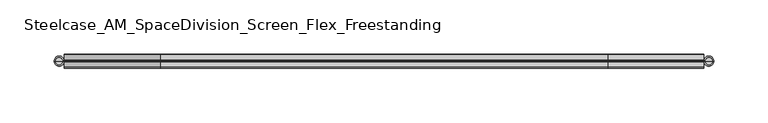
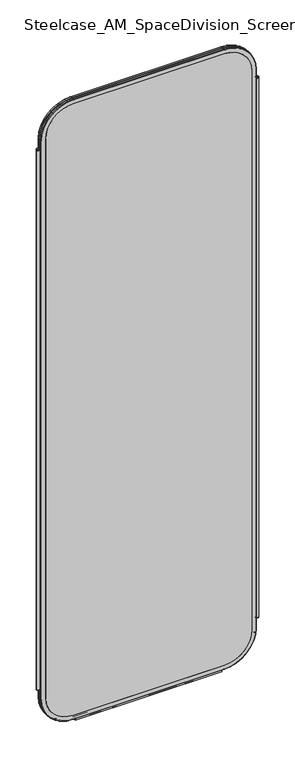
"""IFC4 building model written with IfcOpenShell, lengths in millimetres: furniture geometry, Steelcase_AM_SpaceDivision_Screen_Flex_Freestanding : 71H x 24W."""

from ifc_helpers import new_model, si_unit, point, frame, frame_2d, origin, place, context, project, spatial, polyline, circle_curve, ellipse_curve, trimmed, segment, composite_curve, outline, extrude, source, transform, mapped, element, save
from ifc_brep_helpers import plane_surface, cylinder_surface, revolved_surface, advanced_brep


def steelcase_am_spacedivision_screen_flex_freestanding_37f45801(model_context):
    return source(origin(), model_context, "Body", "SolidModel", [
        advanced_brep(
        [(608.33, 0.0, 1687.83), (601.7294661, 0.0, 1687.83), (605.029733, 0.0, 1687.83), (609.6, 0.0, 1686.56), (600.4594661, 0.0, 1686.56), (609.6, 0.0, 121.92), (600.4594661, 0.0, 121.92), (608.33, 0.0, 120.65), (601.7294661, 0.0, 120.65), (605.029733, 0.0, 120.65)],
        [
            (0, 1, circle_curve(frame((605.029733, 0.0, 1687.83), z_axis=(0.0, 0.0, 1.0), x_axis=(-1.0, 0.0, 0.0)), 3.300267)),
            (1, 2),
            (2, 0),
            (1, 0, circle_curve(frame((605.029733, 0.0, 1687.83), z_axis=(0.0, 0.0, 1.0), x_axis=(-1.0, 0.0, 0.0)), 3.300267)),
            (3, 4, circle_curve(frame((605.029733, 0.0, 1686.56), z_axis=(0.0, 0.0, 1.0), x_axis=(-1.0, 0.0, 0.0)), 4.570267)),
            (4, 1, circle_curve(frame((601.7294661, 0.0, 1686.56), z_axis=(0.0, 1.0, 0.0), x_axis=(1.0, 0.0, 0.0)), 1.27)),
            (0, 3, circle_curve(frame((608.33, 0.0, 1686.56), z_axis=(0.0, 1.0, 0.0), x_axis=(-1.0, 0.0, 0.0)), 1.27)),
            (4, 3, circle_curve(frame((605.029733, 0.0, 1686.56), z_axis=(0.0, 0.0, 1.0), x_axis=(-1.0, 0.0, 0.0)), 4.570267)),
            (5, 6, circle_curve(frame((605.029733, 0.0, 121.92), z_axis=(0.0, 0.0, 1.0), x_axis=(-1.0, 0.0, 0.0)), 4.570267)),
            (6, 4),
            (3, 5),
            (6, 5, circle_curve(frame((605.029733, 0.0, 121.92), z_axis=(0.0, 0.0, 1.0), x_axis=(-1.0, 0.0, 0.0)), 4.570267)),
            (7, 8, circle_curve(frame((605.029733, 0.0, 120.65), z_axis=(0.0, 0.0, 1.0), x_axis=(-1.0, 0.0, 0.0)), 3.300267)),
            (8, 6, circle_curve(frame((601.7294661, 0.0, 121.92), z_axis=(0.0, 1.0, 0.0), x_axis=(1.0, 0.0, 0.0)), 1.27)),
            (5, 7, circle_curve(frame((608.33, 0.0, 121.92), z_axis=(0.0, 1.0, 0.0), x_axis=(-1.0, 0.0, 0.0)), 1.27)),
            (8, 7, circle_curve(frame((605.029733, 0.0, 120.65), z_axis=(0.0, 0.0, 1.0), x_axis=(-1.0, 0.0, 0.0)), 3.300267)),
            (9, 8),
            (7, 9),
        ],
        [
            plane_surface(frame((605.029733, 0.0, 1687.83), z_axis=(0.0, 0.0, 1.0), x_axis=(-1.0, 0.0, 0.0))),
            revolved_surface(trimmed(ellipse_curve(frame((601.7294661, 0.0, 1686.56), z_axis=(0.0, -1.0, 0.0), x_axis=(1.0, 0.0, 0.0)), 1.27, 1.27), [point((601.7294661, 0.0, 1687.83))], [point((600.4594661, 0.0, 1686.56))], True, "CARTESIAN"), (605.029733, 0.0, 112.3021634), (0.0, 0.0, -1.0)),
            cylinder_surface(frame((605.029733, 0.0, 112.3021634), z_axis=(0.0, 0.0, -1.0), x_axis=(-1.0, 0.0, 0.0)), 4.570267),
            revolved_surface(trimmed(ellipse_curve(frame((601.7294661, 0.0, 121.92), z_axis=(0.0, -1.0, 0.0), x_axis=(1.0, 0.0, 0.0)), 1.27, 1.27), [point((600.4594661, 0.0, 121.92))], [point((601.7294661, 0.0, 120.65))], True, "CARTESIAN"), (605.029733, 0.0, 112.3021634), (0.0, 0.0, -1.0)),
            plane_surface(frame((605.029733, 0.0, 120.65), z_axis=(0.0, 0.0, -1.0), x_axis=(-1.0, 0.0, 0.0))),
        ],
        [
            (0, [[1, 2, 3]]),
            (0, [[4, -3, -2]]),
            (1, [[5, 6, -1, 7]]),
            (1, [[8, -7, -4, -6]]),
            (2, [[9, 10, -5, 11]]),
            (2, [[12, -11, -8, -10]]),
            (3, [[13, 14, -9, 15]]),
            (3, [[16, -15, -12, -14]]),
            (4, [[17, -13, 18]]),
            (4, [[-18, -16, -17]]),
        ],
    ),
        advanced_brep(
        [(7.9329041, 0.0, 120.65), (1.232448, 0.0, 120.65), (0.0, 0.0, 121.882448), (9.1653521, 0.0, 121.882448), (4.582676, 0.0, 120.65), (7.8953521, 0.0, 1687.83), (1.27, 0.0, 1687.83), (4.582676, 0.0, 1687.83), (9.1653521, 0.0, 1686.56), (0.0, 0.0, 1686.56)],
        [
            (0, 1, circle_curve(frame((4.582676, 0.0, 120.65), z_axis=(0.0, 0.0, 1.0), x_axis=(-1.0, 0.0, 0.0)), 3.3502281)),
            (1, 2, circle_curve(frame((1.232448, 0.0, 121.882448), z_axis=(0.0, 1.0, 0.0), x_axis=(1.0, 0.0, 0.0)), 1.232448)),
            (2, 3, circle_curve(frame((4.582676, 0.0, 121.882448), z_axis=(0.0, 0.0, -1.0), x_axis=(-1.0, 0.0, 0.0)), 4.582676)),
            (3, 0, circle_curve(frame((7.9329041, 0.0, 121.882448), z_axis=(0.0, 1.0, 0.0), x_axis=(-1.0, 0.0, 0.0)), 1.232448)),
            (1, 0, circle_curve(frame((4.582676, 0.0, 120.65), z_axis=(0.0, 0.0, 1.0), x_axis=(-1.0, 0.0, 0.0)), 3.3502281)),
            (3, 2, circle_curve(frame((4.582676, 0.0, 121.882448), z_axis=(0.0, 0.0, -1.0), x_axis=(-1.0, 0.0, 0.0)), 4.582676)),
            (4, 1),
            (0, 4),
            (5, 6, circle_curve(frame((4.582676, 0.0, 1687.83), z_axis=(0.0, 0.0, 1.0), x_axis=(-1.0, 0.0, 0.0)), 3.312676)),
            (6, 7),
            (7, 5),
            (6, 5, circle_curve(frame((4.582676, 0.0, 1687.83), z_axis=(0.0, 0.0, 1.0), x_axis=(-1.0, 0.0, 0.0)), 3.312676)),
            (8, 9, circle_curve(frame((4.582676, 0.0, 1686.56), z_axis=(0.0, 0.0, 1.0), x_axis=(-1.0, 0.0, 0.0)), 4.582676)),
            (9, 6, circle_curve(frame((1.27, 0.0, 1686.56), z_axis=(0.0, 1.0, 0.0), x_axis=(1.0, 0.0, 0.0)), 1.27)),
            (5, 8, circle_curve(frame((7.8953521, 0.0, 1686.56), z_axis=(0.0, 1.0, 0.0), x_axis=(-1.0, 0.0, 0.0)), 1.27)),
            (9, 8, circle_curve(frame((4.582676, 0.0, 1686.56), z_axis=(0.0, 0.0, 1.0), x_axis=(-1.0, 0.0, 0.0)), 4.582676)),
            (2, 9),
            (8, 3),
        ],
        [
            revolved_surface(trimmed(ellipse_curve(frame((1.232448, 0.0, 121.882448), z_axis=(0.0, -1.0, 0.0), x_axis=(1.0, 0.0, 0.0)), 1.232448, 1.232448), [point((0.0, 0.0, 121.882448))], [point((1.232448, 0.0, 120.65))], True, "CARTESIAN"), (4.582676, 0.0, 110.6453157), (0.0, 0.0, -1.0)),
            plane_surface(frame((4.582676, 0.0, 120.65), z_axis=(0.0, 0.0, -1.0), x_axis=(-1.0, 0.0, 0.0))),
            plane_surface(frame((4.582676, 0.0, 1687.83), z_axis=(0.0, 0.0, 1.0), x_axis=(-1.0, 0.0, 0.0))),
            revolved_surface(trimmed(ellipse_curve(frame((1.27, 0.0, 1686.56), z_axis=(0.0, -1.0, 0.0), x_axis=(1.0, 0.0, 0.0)), 1.27, 1.27), [point((1.27, 0.0, 1687.83))], [point((0.0, 0.0, 1686.56))], True, "CARTESIAN"), (4.582676, 0.0, 110.6453157), (0.0, 0.0, -1.0)),
            cylinder_surface(frame((4.582676, 0.0, 110.6453157), z_axis=(0.0, 0.0, -1.0), x_axis=(-1.0, 0.0, 0.0)), 4.582676),
        ],
        [
            (0, [[1, 2, 3, 4]]),
            (0, [[5, -4, 6, -2]]),
            (1, [[7, -1, 8]]),
            (1, [[-8, -5, -7]]),
            (2, [[9, 10, 11]]),
            (2, [[12, -11, -10]]),
            (3, [[13, 14, -9, 15]]),
            (3, [[16, -15, -12, -14]]),
            (4, [[-3, 17, -13, 18]]),
            (4, [[-6, -18, -16, -17]]),
        ],
    ),
        extrude(outline(composite_curve([segment(trimmed(circle_curve(frame_2d((3.5, 2.4751953)), 2.5), [point((3.5, 4.9751953))], [point((1.4656663, 1.0220998))], False, "CARTESIAN"), True, "CONTINUOUS"), segment(trimmed(circle_curve(frame_2d((0.0, -0.0248047)), 1.8011626), [point((1.4656663, 1.0220998))], [point((-1.4656663, 1.0220998))], True, "CARTESIAN"), True, "CONTINUOUS"), segment(trimmed(circle_curve(frame_2d((-3.5, 2.4751953)), 2.5), [point((-1.4656663, 1.0220998))], [point((-3.5, 4.9751953))], False, "CARTESIAN"), True, "CONTINUOUS"), segment(trimmed(circle_curve(frame_2d((-3.5, 4.4751953)), 0.5), [point((-3.5, 4.9751953))], [point((-3.5, 3.9751953))], False, "CARTESIAN"), True, "CONTINUOUS"), segment(trimmed(circle_curve(frame_2d((-3.5, 2.4751953)), 1.5), [point((-3.5, 3.9751953))], [point((-2.3025096, 1.5718589))], True, "CARTESIAN"), True, "CONTINUOUS"), segment(trimmed(circle_curve(frame_2d((-10.3325937, 7.629417)), 10.0586411), [point((-2.3025096, 1.5718589))], [point((-0.714976, 4.6836248))], True, "CARTESIAN"), True, "CONTINUOUS"), segment(trimmed(circle_curve(frame_2d((0.0, 4.4646339)), 0.7477618), [point((-0.714976, 4.6836248))], [point((0.714976, 4.6836248))], False, "CARTESIAN"), True, "CONTINUOUS"), segment(trimmed(circle_curve(frame_2d((10.3325937, 7.629417)), 10.0586411), [point((0.714976, 4.6836248))], [point((2.3025096, 1.5718589))], True, "CARTESIAN"), True, "CONTINUOUS"), segment(trimmed(circle_curve(frame_2d((3.5, 2.4751953)), 1.5), [point((2.3025096, 1.5718589))], [point((3.5, 3.9751953))], True, "CARTESIAN"), True, "CONTINUOUS"), segment(trimmed(circle_curve(frame_2d((3.5, 4.4751953)), 0.5), [point((3.5, 3.9751953))], [point((3.5, 4.9751953))], False, "CARTESIAN"), True, "CONTINUOUS")], self_intersect=False)), frame((104.1640108, 0.0, 0.0), z_axis=(1.0, 0.0, 0.0), x_axis=(0.0, 1.0, 0.0)), (0.0, 0.0, 1.0), 401.2719784),
        extrude(outline(composite_curve([segment(trimmed(circle_curve(frame_2d((1714.5, 511.5594661)), 76.2), [point((1714.5, 587.7594661))], [point((1790.7, 511.5594661))], False, "CARTESIAN"), True, "CONTINUOUS"), segment(polyline([(1790.7, 511.5594661), (1790.7, 98.0653521)]), True, "CONTINUOUS"), segment(trimmed(circle_curve(frame_2d((1714.5, 98.0653521)), 76.2), [point((1790.7, 98.0653521))], [point((1714.5, 21.8653521))], False, "CARTESIAN"), True, "CONTINUOUS"), segment(polyline([(1714.5, 21.8653521), (93.8996464, 21.8653521)]), True, "CONTINUOUS"), segment(trimmed(circle_curve(frame_2d((93.8996464, 98.0653521)), 76.2), [point((93.8996464, 21.8653521))], [point((17.6996464, 98.0653521))], False, "CARTESIAN"), True, "CONTINUOUS"), segment(polyline([(17.6996464, 98.0653521), (17.6996464, 511.5594661)]), True, "CONTINUOUS"), segment(trimmed(circle_curve(frame_2d((93.8996464, 511.5594661)), 76.2), [point((17.6996464, 511.5594661))], [point((93.8996464, 587.7594661))], False, "CARTESIAN"), True, "CONTINUOUS"), segment(polyline([(93.8996464, 587.7594661), (1714.5, 587.7594661)]), True, "CONTINUOUS")], self_intersect=False)), frame((0.0, -6.477, 0.0), z_axis=(0.0, 1.0, 0.0), x_axis=(0.0, 0.0, 1.0)), (0.0, 0.0, 1.0), 12.954),
        advanced_brep(
        [(98.0653521, -6.477, 1790.7), (21.8653521, -6.477, 1714.5), (21.8653521, 6.477, 1714.5), (98.0653521, 6.477, 1790.7), (98.0653521, -5.715, 1803.4), (9.1653521, -5.715, 1714.5), (9.9273521, -6.477, 1714.5), (98.0653521, -6.477, 1802.638), (98.0653521, -0.8129491, 1803.4), (9.1653521, -0.8129491, 1714.5), (98.0653521, 0.0, 1802.8093579), (9.7559942, 0.0, 1714.5), (98.0653521, 0.8129491, 1803.4), (9.1653521, 0.8129491, 1714.5), (98.0653521, 5.715, 1803.4), (9.1653521, 5.715, 1714.5), (98.0653521, 6.477, 1802.638), (9.9273521, 6.477, 1714.5), (511.5594661, 6.477, 1790.7), (511.5594661, -6.477, 1790.7), (511.5594661, -6.477, 1802.638), (511.5594661, -5.715, 1803.4), (511.5594661, -0.8129491, 1803.4), (511.5594661, 0.0, 1802.8093579), (511.5594661, 0.8129491, 1803.4), (511.5594661, 5.715, 1803.4), (511.5594661, 6.477, 1802.638), (587.7594661, -6.477, 1714.5), (587.7594661, 6.477, 1714.5), (600.4594661, -5.715, 1714.5), (599.6974661, -6.477, 1714.5), (600.4594661, -0.8129491, 1714.5), (599.8688239, 0.0, 1714.5), (600.4594661, 0.8129491, 1714.5), (600.4594661, 5.715, 1714.5), (599.6974661, 6.477, 1714.5), (587.7594661, 6.477, 93.8996464), (587.7594661, -6.477, 93.8996464), (599.6974661, -6.477, 93.8996464), (600.4594661, -5.715, 93.8996464), (600.4594661, -0.8129491, 93.8996464), (599.8688239, 0.0, 93.8996464), (600.4594661, 0.8129491, 93.8996464), (600.4594661, 5.715, 93.8996464), (599.6974661, 6.477, 93.8996464), (511.5594661, -6.477, 17.6996464), (511.5594661, 6.477, 17.6996464), (511.5594661, -5.715, 4.9996464), (511.5594661, -6.477, 5.7616464), (511.5594661, -0.8129491, 4.9996464), (511.5594661, 0.0, 5.5902885), (511.5594661, 0.8129491, 4.9996464), (511.5594661, 5.715, 4.9996464), (511.5594661, 6.477, 5.7616464), (98.0653521, 6.477, 17.6996464), (98.0653521, -6.477, 17.6996464), (98.0653521, -6.477, 5.7616464), (98.0653521, -5.715, 4.9996464), (98.0653521, -0.8129491, 4.9996464), (98.0653521, 0.0, 5.5902885), (98.0653521, 0.8129491, 4.9996464), (98.0653521, 5.715, 4.9996464), (98.0653521, 6.477, 5.7616464), (21.8653521, -6.477, 93.8996464), (21.8653521, 6.477, 93.8996464), (9.1653521, -5.715, 93.8996464), (9.9273521, -6.477, 93.8996464), (9.1653521, -0.8129491, 93.8996464), (9.7559942, 0.0, 93.8996464), (9.1653521, 0.8129491, 93.8996464), (9.1653521, 5.715, 93.8996464), (9.9273521, 6.477, 93.8996464)],
        [
            (0, 1, circle_curve(frame((98.0653521, -6.477, 1714.5), z_axis=(0.0, -1.0, 0.0), x_axis=(-1.0, 0.0, 0.0)), 76.2)),
            (1, 2),
            (2, 3, circle_curve(frame((98.0653521, 6.477, 1714.5), z_axis=(0.0, 1.0, 0.0), x_axis=(-1.0, 0.0, 0.0)), 76.2)),
            (3, 0),
            (4, 5, circle_curve(frame((98.0653521, -5.715, 1714.5), z_axis=(0.0, -1.0, 0.0), x_axis=(-1.0, 0.0, 0.0)), 88.9)),
            (5, 6, circle_curve(frame((9.9273521, -5.715, 1714.5), z_axis=(0.0, 0.0, 1.0), x_axis=(-1.0, 0.0, 0.0)), 0.762)),
            (6, 7, circle_curve(frame((98.0653521, -6.477, 1714.5), z_axis=(0.0, 1.0, 0.0), x_axis=(-1.0, 0.0, 0.0)), 88.138)),
            (7, 4, circle_curve(frame((98.0653521, -5.715, 1802.638), z_axis=(-1.0, 0.0, 0.0), x_axis=(0.0, 0.0, 1.0)), 0.762)),
            (8, 9, circle_curve(frame((98.0653521, -0.8129491, 1714.5), z_axis=(0.0, -1.0, 0.0), x_axis=(-1.0, 0.0, 0.0)), 88.9)),
            (9, 5),
            (4, 8),
            (10, 11, circle_curve(frame((98.0653521, 0.0, 1714.5), z_axis=(0.0, -1.0, 0.0), x_axis=(-1.0, 0.0, 0.0)), 88.3093579)),
            (11, 9, circle_curve(frame((10.0201374, -0.8129491, 1714.5), z_axis=(0.0, 0.0, 1.0), x_axis=(-1.0, 0.0, 0.0)), 0.8547853)),
            (8, 10, circle_curve(frame((98.0653521, -0.8129491, 1802.5452147), z_axis=(-1.0, 0.0, 0.0), x_axis=(0.0, 0.0, 1.0)), 0.8547853)),
            (12, 13, circle_curve(frame((98.0653521, 0.8129491, 1714.5), z_axis=(0.0, -1.0, 0.0), x_axis=(-1.0, 0.0, 0.0)), 88.9)),
            (13, 11, circle_curve(frame((10.0201374, 0.8129491, 1714.5), z_axis=(0.0, 0.0, 1.0), x_axis=(-1.0, 0.0, 0.0)), 0.8547853)),
            (10, 12, circle_curve(frame((98.0653521, 0.8129491, 1802.5452147), z_axis=(-1.0, 0.0, 0.0), x_axis=(0.0, 0.0, 1.0)), 0.8547853)),
            (14, 15, circle_curve(frame((98.0653521, 5.715, 1714.5), z_axis=(0.0, -1.0, 0.0), x_axis=(-1.0, 0.0, 0.0)), 88.9)),
            (15, 13),
            (12, 14),
            (16, 17, circle_curve(frame((98.0653521, 6.477, 1714.5), z_axis=(0.0, -1.0, 0.0), x_axis=(-1.0, 0.0, 0.0)), 88.138)),
            (17, 15, circle_curve(frame((9.9273521, 5.715, 1714.5), z_axis=(0.0, 0.0, 1.0), x_axis=(-1.0, 0.0, 0.0)), 0.762)),
            (14, 16, circle_curve(frame((98.0653521, 5.715, 1802.638), z_axis=(-1.0, 0.0, 0.0), x_axis=(0.0, 0.0, 1.0)), 0.762)),
            (3, 18),
            (18, 19),
            (19, 0),
            (7, 20),
            (20, 21, circle_curve(frame((511.5594661, -5.715, 1802.638), z_axis=(-1.0, 0.0, 0.0), x_axis=(0.0, 0.0, 1.0)), 0.762)),
            (21, 4),
            (21, 22),
            (22, 8),
            (22, 23, circle_curve(frame((511.5594661, -0.8129491, 1802.5452147), z_axis=(-1.0, 0.0, 0.0), x_axis=(0.0, 0.0, 1.0)), 0.8547853)),
            (23, 10),
            (23, 24, circle_curve(frame((511.5594661, 0.8129491, 1802.5452147), z_axis=(-1.0, 0.0, 0.0), x_axis=(0.0, 0.0, 1.0)), 0.8547853)),
            (24, 12),
            (24, 25),
            (25, 14),
            (25, 26, circle_curve(frame((511.5594661, 5.715, 1802.638), z_axis=(-1.0, 0.0, 0.0), x_axis=(0.0, 0.0, 1.0)), 0.762)),
            (26, 16),
            (27, 19, circle_curve(frame((511.5594661, -6.477, 1714.5), z_axis=(0.0, -1.0, 0.0), x_axis=(0.0, 0.0, 1.0)), 76.2)),
            (18, 28, circle_curve(frame((511.5594661, 6.477, 1714.5), z_axis=(0.0, 1.0, 0.0), x_axis=(0.0, 0.0, 1.0)), 76.2)),
            (28, 27),
            (29, 21, circle_curve(frame((511.5594661, -5.715, 1714.5), z_axis=(0.0, -1.0, 0.0), x_axis=(0.0, 0.0, 1.0)), 88.9)),
            (20, 30, circle_curve(frame((511.5594661, -6.477, 1714.5), z_axis=(0.0, 1.0, 0.0), x_axis=(0.0, 0.0, 1.0)), 88.138)),
            (30, 29, circle_curve(frame((599.6974661, -5.715, 1714.5), z_axis=(0.0, 0.0, 1.0), x_axis=(1.0, 0.0, 0.0)), 0.762)),
            (31, 22, circle_curve(frame((511.5594661, -0.8129491, 1714.5), z_axis=(0.0, -1.0, 0.0), x_axis=(0.0, 0.0, 1.0)), 88.9)),
            (29, 31),
            (32, 23, circle_curve(frame((511.5594661, 0.0, 1714.5), z_axis=(0.0, -1.0, 0.0), x_axis=(0.0, 0.0, 1.0)), 88.3093579)),
            (31, 32, circle_curve(frame((599.6046808, -0.8129491, 1714.5), z_axis=(0.0, 0.0, 1.0), x_axis=(1.0, 0.0, 0.0)), 0.8547853)),
            (33, 24, circle_curve(frame((511.5594661, 0.8129491, 1714.5), z_axis=(0.0, -1.0, 0.0), x_axis=(0.0, 0.0, 1.0)), 88.9)),
            (32, 33, circle_curve(frame((599.6046808, 0.8129491, 1714.5), z_axis=(0.0, 0.0, 1.0), x_axis=(1.0, 0.0, 0.0)), 0.8547853)),
            (34, 25, circle_curve(frame((511.5594661, 5.715, 1714.5), z_axis=(0.0, -1.0, 0.0), x_axis=(0.0, 0.0, 1.0)), 88.9)),
            (33, 34),
            (35, 26, circle_curve(frame((511.5594661, 6.477, 1714.5), z_axis=(0.0, -1.0, 0.0), x_axis=(0.0, 0.0, 1.0)), 88.138)),
            (34, 35, circle_curve(frame((599.6974661, 5.715, 1714.5), z_axis=(0.0, 0.0, 1.0), x_axis=(1.0, 0.0, 0.0)), 0.762)),
            (28, 36),
            (36, 37),
            (37, 27),
            (30, 38),
            (38, 39, circle_curve(frame((599.6974661, -5.715, 93.8996464), z_axis=(0.0, 0.0, 1.0), x_axis=(1.0, 0.0, 0.0)), 0.762)),
            (39, 29),
            (39, 40),
            (40, 31),
            (40, 41, circle_curve(frame((599.6046808, -0.8129491, 93.8996464), z_axis=(0.0, 0.0, 1.0), x_axis=(1.0, 0.0, 0.0)), 0.8547853)),
            (41, 32),
            (41, 42, circle_curve(frame((599.6046808, 0.8129491, 93.8996464), z_axis=(0.0, 0.0, 1.0), x_axis=(1.0, 0.0, 0.0)), 0.8547853)),
            (42, 33),
            (42, 43),
            (43, 34),
            (43, 44, circle_curve(frame((599.6974661, 5.715, 93.8996464), z_axis=(0.0, 0.0, 1.0), x_axis=(1.0, 0.0, 0.0)), 0.762)),
            (44, 35),
            (45, 37, circle_curve(frame((511.5594661, -6.477, 93.8996464), z_axis=(0.0, -1.0, 0.0), x_axis=(1.0, 0.0, 0.0)), 76.2)),
            (36, 46, circle_curve(frame((511.5594661, 6.477, 93.8996464), z_axis=(0.0, 1.0, 0.0), x_axis=(1.0, 0.0, 0.0)), 76.2)),
            (46, 45),
            (47, 39, circle_curve(frame((511.5594661, -5.715, 93.8996464), z_axis=(0.0, -1.0, 0.0), x_axis=(1.0, 0.0, 0.0)), 88.9)),
            (38, 48, circle_curve(frame((511.5594661, -6.477, 93.8996464), z_axis=(0.0, 1.0, 0.0), x_axis=(1.0, 0.0, 0.0)), 88.138)),
            (48, 47, circle_curve(frame((511.5594661, -5.715, 5.7616464), z_axis=(1.0, 0.0, 0.0), x_axis=(0.0, 0.0, -1.0)), 0.762)),
            (49, 40, circle_curve(frame((511.5594661, -0.8129491, 93.8996464), z_axis=(0.0, -1.0, 0.0), x_axis=(1.0, 0.0, 0.0)), 88.9)),
            (47, 49),
            (50, 41, circle_curve(frame((511.5594661, 0.0, 93.8996464), z_axis=(0.0, -1.0, 0.0), x_axis=(1.0, 0.0, 0.0)), 88.3093579)),
            (49, 50, circle_curve(frame((511.5594661, -0.8129491, 5.8544317), z_axis=(1.0, 0.0, 0.0), x_axis=(0.0, 0.0, -1.0)), 0.8547853)),
            (51, 42, circle_curve(frame((511.5594661, 0.8129491, 93.8996464), z_axis=(0.0, -1.0, 0.0), x_axis=(1.0, 0.0, 0.0)), 88.9)),
            (50, 51, circle_curve(frame((511.5594661, 0.8129491, 5.8544317), z_axis=(1.0, 0.0, 0.0), x_axis=(0.0, 0.0, -1.0)), 0.8547853)),
            (52, 43, circle_curve(frame((511.5594661, 5.715, 93.8996464), z_axis=(0.0, -1.0, 0.0), x_axis=(1.0, 0.0, 0.0)), 88.9)),
            (51, 52),
            (53, 44, circle_curve(frame((511.5594661, 6.477, 93.8996464), z_axis=(0.0, -1.0, 0.0), x_axis=(1.0, 0.0, 0.0)), 88.138)),
            (52, 53, circle_curve(frame((511.5594661, 5.715, 5.7616464), z_axis=(1.0, 0.0, 0.0), x_axis=(0.0, 0.0, -1.0)), 0.762)),
            (46, 54),
            (54, 55),
            (55, 45),
            (48, 56),
            (56, 57, circle_curve(frame((98.0653521, -5.715, 5.7616464), z_axis=(1.0, 0.0, 0.0), x_axis=(0.0, 0.0, -1.0)), 0.762)),
            (57, 47),
            (57, 58),
            (58, 49),
            (58, 59, circle_curve(frame((98.0653521, -0.8129491, 5.8544317), z_axis=(1.0, 0.0, 0.0), x_axis=(0.0, 0.0, -1.0)), 0.8547853)),
            (59, 50),
            (59, 60, circle_curve(frame((98.0653521, 0.8129491, 5.8544317), z_axis=(1.0, 0.0, 0.0), x_axis=(0.0, 0.0, -1.0)), 0.8547853)),
            (60, 51),
            (60, 61),
            (61, 52),
            (61, 62, circle_curve(frame((98.0653521, 5.715, 5.7616464), z_axis=(1.0, 0.0, 0.0), x_axis=(0.0, 0.0, -1.0)), 0.762)),
            (62, 53),
            (63, 55, circle_curve(frame((98.0653521, -6.477, 93.8996464), z_axis=(0.0, -1.0, 0.0), x_axis=(0.0, 0.0, -1.0)), 76.2)),
            (54, 64, circle_curve(frame((98.0653521, 6.477, 93.8996464), z_axis=(0.0, 1.0, 0.0), x_axis=(0.0, 0.0, -1.0)), 76.2)),
            (64, 63),
            (65, 57, circle_curve(frame((98.0653521, -5.715, 93.8996464), z_axis=(0.0, -1.0, 0.0), x_axis=(0.0, 0.0, -1.0)), 88.9)),
            (56, 66, circle_curve(frame((98.0653521, -6.477, 93.8996464), z_axis=(0.0, 1.0, 0.0), x_axis=(0.0, 0.0, -1.0)), 88.138)),
            (66, 65, circle_curve(frame((9.9273521, -5.715, 93.8996464), z_axis=(0.0, 0.0, -1.0), x_axis=(-1.0, 0.0, 0.0)), 0.762)),
            (67, 58, circle_curve(frame((98.0653521, -0.8129491, 93.8996464), z_axis=(0.0, -1.0, 0.0), x_axis=(0.0, 0.0, -1.0)), 88.9)),
            (65, 67),
            (68, 59, circle_curve(frame((98.0653521, 0.0, 93.8996464), z_axis=(0.0, -1.0, 0.0), x_axis=(0.0, 0.0, -1.0)), 88.3093579)),
            (67, 68, circle_curve(frame((10.0201374, -0.8129491, 93.8996464), z_axis=(0.0, 0.0, -1.0), x_axis=(-1.0, 0.0, 0.0)), 0.8547853)),
            (69, 60, circle_curve(frame((98.0653521, 0.8129491, 93.8996464), z_axis=(0.0, -1.0, 0.0), x_axis=(0.0, 0.0, -1.0)), 88.9)),
            (68, 69, circle_curve(frame((10.0201374, 0.8129491, 93.8996464), z_axis=(0.0, 0.0, -1.0), x_axis=(-1.0, 0.0, 0.0)), 0.8547853)),
            (70, 61, circle_curve(frame((98.0653521, 5.715, 93.8996464), z_axis=(0.0, -1.0, 0.0), x_axis=(0.0, 0.0, -1.0)), 88.9)),
            (69, 70),
            (71, 62, circle_curve(frame((98.0653521, 6.477, 93.8996464), z_axis=(0.0, -1.0, 0.0), x_axis=(0.0, 0.0, -1.0)), 88.138)),
            (70, 71, circle_curve(frame((9.9273521, 5.715, 93.8996464), z_axis=(0.0, 0.0, -1.0), x_axis=(-1.0, 0.0, 0.0)), 0.762)),
            (64, 2),
            (1, 63),
            (6, 66),
            (5, 65),
            (9, 67),
            (11, 68),
            (13, 69),
            (15, 70),
            (17, 71),
        ],
        [
            revolved_surface(polyline([(21.865352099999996, 6.477, 1714.5), (21.865352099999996, -6.477, 1714.5)]), (98.0653521, 0.0, 1714.5), (0.0, 1.0, 0.0)),
            revolved_surface(trimmed(ellipse_curve(frame((9.9273521, -5.715, 1714.5), z_axis=(0.0, 0.0, -1.0), x_axis=(-1.0, 0.0, 0.0)), 0.762, 0.762), [point((9.9273521, -6.477, 1714.5))], [point((9.1653521, -5.715, 1714.5))], True, "CARTESIAN"), (98.0653521, 0.0, 1714.5), (0.0, 1.0, 0.0)),
            cylinder_surface(frame((98.0653521, 0.0, 1714.5), z_axis=(0.0, 1.0, 0.0), x_axis=(-1.0, 0.0, 0.0)), 88.9),
            revolved_surface(trimmed(ellipse_curve(frame((10.0201374, -0.8129491, 1714.5), z_axis=(0.0, 0.0, -1.0), x_axis=(-1.0, 0.0, 0.0)), 0.8547853, 0.8547853), [point((9.1653521, -0.8129491, 1714.5))], [point((9.7559942, 0.0, 1714.5))], True, "CARTESIAN"), (98.0653521, 0.0, 1714.5), (0.0, 1.0, 0.0)),
            revolved_surface(trimmed(ellipse_curve(frame((10.0201374, 0.8129491, 1714.5), z_axis=(0.0, 0.0, -1.0), x_axis=(-1.0, 0.0, 0.0)), 0.8547853, 0.8547853), [point((9.7559942, 0.0, 1714.5))], [point((9.1653521, 0.8129491, 1714.5))], True, "CARTESIAN"), (98.0653521, 0.0, 1714.5), (0.0, 1.0, 0.0)),
            revolved_surface(trimmed(ellipse_curve(frame((9.9273521, 5.715, 1714.5), z_axis=(0.0, 0.0, -1.0), x_axis=(-1.0, 0.0, 0.0)), 0.762, 0.762), [point((9.1653521, 5.715, 1714.5))], [point((9.9273521, 6.477, 1714.5))], True, "CARTESIAN"), (98.0653521, 0.0, 1714.5), (0.0, 1.0, 0.0)),
            plane_surface(frame((98.0653521, 6.477, 1790.7), z_axis=(0.0, 0.0, -1.0), x_axis=(1.0, 0.0, 0.0))),
            cylinder_surface(frame((98.0653521, -5.715, 1802.638), z_axis=(-1.0, 0.0, 0.0), x_axis=(0.0, 0.0, 1.0)), 0.762),
            plane_surface(frame((98.0653521, -5.715, 1803.4), z_axis=(0.0, 0.0, 1.0), x_axis=(1.0, 0.0, 0.0))),
            cylinder_surface(frame((98.0653521, -0.8129491, 1802.5452147), z_axis=(-1.0, 0.0, 0.0), x_axis=(0.0, 0.0, 1.0)), 0.8547853),
            cylinder_surface(frame((98.0653521, 0.8129491, 1802.5452147), z_axis=(-1.0, 0.0, 0.0), x_axis=(0.0, 0.0, 1.0)), 0.8547853),
            plane_surface(frame((98.0653521, 0.8129491, 1803.4), z_axis=(0.0, 0.0, 1.0), x_axis=(1.0, 0.0, 0.0))),
            cylinder_surface(frame((98.0653521, 5.715, 1802.638), z_axis=(-1.0, 0.0, 0.0), x_axis=(0.0, 0.0, 1.0)), 0.762),
            revolved_surface(polyline([(511.5594661, 6.477, 1790.7), (511.5594661, -6.477, 1790.7)]), (511.5594661, 0.0, 1714.5), (0.0, 1.0, 0.0)),
            revolved_surface(trimmed(ellipse_curve(frame((511.5594661, -5.715, 1802.638), z_axis=(-1.0, 0.0, 0.0), x_axis=(0.0, 0.0, 1.0)), 0.762, 0.762), [point((511.5594661, -6.477, 1802.638))], [point((511.5594661, -5.715, 1803.4))], True, "CARTESIAN"), (511.5594661, 0.0, 1714.5), (0.0, 1.0, 0.0)),
            cylinder_surface(frame((511.5594661, 0.0, 1714.5), z_axis=(0.0, 1.0, 0.0), x_axis=(0.0, 0.0, 1.0)), 88.9),
            revolved_surface(trimmed(ellipse_curve(frame((511.5594661, -0.8129491, 1802.5452147), z_axis=(-1.0, 0.0, 0.0), x_axis=(0.0, 0.0, 1.0)), 0.8547853, 0.8547853), [point((511.5594661, -0.8129491, 1803.4))], [point((511.5594661, 0.0, 1802.8093579))], True, "CARTESIAN"), (511.5594661, 0.0, 1714.5), (0.0, 1.0, 0.0)),
            revolved_surface(trimmed(ellipse_curve(frame((511.5594661, 0.8129491, 1802.5452147), z_axis=(-1.0, 0.0, 0.0), x_axis=(0.0, 0.0, 1.0)), 0.8547853, 0.8547853), [point((511.5594661, 0.0, 1802.8093579))], [point((511.5594661, 0.8129491, 1803.4))], True, "CARTESIAN"), (511.5594661, 0.0, 1714.5), (0.0, 1.0, 0.0)),
            revolved_surface(trimmed(ellipse_curve(frame((511.5594661, 5.715, 1802.638), z_axis=(-1.0, 0.0, 0.0), x_axis=(0.0, 0.0, 1.0)), 0.762, 0.762), [point((511.5594661, 5.715, 1803.4))], [point((511.5594661, 6.477, 1802.638))], True, "CARTESIAN"), (511.5594661, 0.0, 1714.5), (0.0, 1.0, 0.0)),
            plane_surface(frame((587.7594661, 6.477, 1714.5), z_axis=(-1.0, 0.0, 0.0), x_axis=(0.0, 0.0, -1.0))),
            cylinder_surface(frame((599.6974661, -5.715, 1714.5), z_axis=(0.0, 0.0, 1.0), x_axis=(1.0, 0.0, 0.0)), 0.762),
            plane_surface(frame((600.4594661, -5.715, 1714.5), z_axis=(1.0, 0.0, 0.0), x_axis=(0.0, 0.0, -1.0))),
            cylinder_surface(frame((599.6046808, -0.8129491, 1714.5), z_axis=(0.0, 0.0, 1.0), x_axis=(1.0, 0.0, 0.0)), 0.8547853),
            cylinder_surface(frame((599.6046808, 0.8129491, 1714.5), z_axis=(0.0, 0.0, 1.0), x_axis=(1.0, 0.0, 0.0)), 0.8547853),
            plane_surface(frame((600.4594661, 0.8129491, 1714.5), z_axis=(1.0, 0.0, 0.0), x_axis=(0.0, 0.0, -1.0))),
            cylinder_surface(frame((599.6974661, 5.715, 1714.5), z_axis=(0.0, 0.0, 1.0), x_axis=(1.0, 0.0, 0.0)), 0.762),
            revolved_surface(polyline([(587.7594661, 6.477, 93.8996464), (587.7594661, -6.477, 93.8996464)]), (511.5594661, 0.0, 93.8996464), (0.0, 1.0, 0.0)),
            revolved_surface(trimmed(ellipse_curve(frame((599.6974661, -5.715, 93.8996464), z_axis=(0.0, 0.0, 1.0), x_axis=(1.0, 0.0, 0.0)), 0.762, 0.762), [point((599.6974661, -6.477, 93.8996464))], [point((600.4594661, -5.715, 93.8996464))], True, "CARTESIAN"), (511.5594661, 0.0, 93.8996464), (0.0, 1.0, 0.0)),
            cylinder_surface(frame((511.5594661, 0.0, 93.8996464), z_axis=(0.0, 1.0, 0.0), x_axis=(1.0, 0.0, 0.0)), 88.9),
            revolved_surface(trimmed(ellipse_curve(frame((599.6046808, -0.8129491, 93.8996464), z_axis=(0.0, 0.0, 1.0), x_axis=(1.0, 0.0, 0.0)), 0.8547853, 0.8547853), [point((600.4594661, -0.8129491, 93.8996464))], [point((599.8688239, 0.0, 93.8996464))], True, "CARTESIAN"), (511.5594661, 0.0, 93.8996464), (0.0, 1.0, 0.0)),
            revolved_surface(trimmed(ellipse_curve(frame((599.6046808, 0.8129491, 93.8996464), z_axis=(0.0, 0.0, 1.0), x_axis=(1.0, 0.0, 0.0)), 0.8547853, 0.8547853), [point((599.8688239, 0.0, 93.8996464))], [point((600.4594661, 0.8129491, 93.8996464))], True, "CARTESIAN"), (511.5594661, 0.0, 93.8996464), (0.0, 1.0, 0.0)),
            revolved_surface(trimmed(ellipse_curve(frame((599.6974661, 5.715, 93.8996464), z_axis=(0.0, 0.0, 1.0), x_axis=(1.0, 0.0, 0.0)), 0.762, 0.762), [point((600.4594661, 5.715, 93.8996464))], [point((599.6974661, 6.477, 93.8996464))], True, "CARTESIAN"), (511.5594661, 0.0, 93.8996464), (0.0, 1.0, 0.0)),
            plane_surface(frame((511.5594661, 6.477, 17.6996464), z_axis=(0.0, 0.0, 1.0), x_axis=(-1.0, 0.0, 0.0))),
            cylinder_surface(frame((511.5594661, -5.715, 5.7616464), z_axis=(1.0, 0.0, 0.0), x_axis=(0.0, 0.0, -1.0)), 0.762),
            plane_surface(frame((511.5594661, -5.715, 4.9996464), z_axis=(0.0, 0.0, -1.0), x_axis=(-1.0, 0.0, 0.0))),
            cylinder_surface(frame((511.5594661, -0.8129491, 5.8544317), z_axis=(1.0, 0.0, 0.0), x_axis=(0.0, 0.0, -1.0)), 0.8547853),
            cylinder_surface(frame((511.5594661, 0.8129491, 5.8544317), z_axis=(1.0, 0.0, 0.0), x_axis=(0.0, 0.0, -1.0)), 0.8547853),
            plane_surface(frame((511.5594661, 0.8129491, 4.9996464), z_axis=(0.0, 0.0, -1.0), x_axis=(-1.0, 0.0, 0.0))),
            cylinder_surface(frame((511.5594661, 5.715, 5.7616464), z_axis=(1.0, 0.0, 0.0), x_axis=(0.0, 0.0, -1.0)), 0.762),
            revolved_surface(polyline([(98.0653521, 6.477, 17.699646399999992), (98.0653521, -6.477, 17.699646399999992)]), (98.0653521, 0.0, 93.8996464), (0.0, 1.0, 0.0)),
            revolved_surface(trimmed(ellipse_curve(frame((98.0653521, -5.715, 5.7616464), z_axis=(1.0, 0.0, 0.0), x_axis=(0.0, 0.0, -1.0)), 0.762, 0.762), [point((98.0653521, -6.477, 5.7616464))], [point((98.0653521, -5.715, 4.9996464))], True, "CARTESIAN"), (98.0653521, 0.0, 93.8996464), (0.0, 1.0, 0.0)),
            cylinder_surface(frame((98.0653521, 0.0, 93.8996464), z_axis=(0.0, 1.0, 0.0), x_axis=(0.0, 0.0, -1.0)), 88.9),
            revolved_surface(trimmed(ellipse_curve(frame((98.0653521, -0.8129491, 5.8544317), z_axis=(1.0, 0.0, 0.0), x_axis=(0.0, 0.0, -1.0)), 0.8547853, 0.8547853), [point((98.0653521, -0.8129491, 4.9996464))], [point((98.0653521, 0.0, 5.5902885))], True, "CARTESIAN"), (98.0653521, 0.0, 93.8996464), (0.0, 1.0, 0.0)),
            revolved_surface(trimmed(ellipse_curve(frame((98.0653521, 0.8129491, 5.8544317), z_axis=(1.0, 0.0, 0.0), x_axis=(0.0, 0.0, -1.0)), 0.8547853, 0.8547853), [point((98.0653521, 0.0, 5.5902885))], [point((98.0653521, 0.8129491, 4.9996464))], True, "CARTESIAN"), (98.0653521, 0.0, 93.8996464), (0.0, 1.0, 0.0)),
            revolved_surface(trimmed(ellipse_curve(frame((98.0653521, 5.715, 5.7616464), z_axis=(1.0, 0.0, 0.0), x_axis=(0.0, 0.0, -1.0)), 0.762, 0.762), [point((98.0653521, 5.715, 4.9996464))], [point((98.0653521, 6.477, 5.7616464))], True, "CARTESIAN"), (98.0653521, 0.0, 93.8996464), (0.0, 1.0, 0.0)),
            plane_surface(frame((21.8653521, 6.477, 93.8996464), z_axis=(1.0, 0.0, 0.0), x_axis=(0.0, 0.0, 1.0))),
            plane_surface(frame((21.8653521, -6.477, 93.8996464), z_axis=(0.0, -1.0, 0.0), x_axis=(0.0, 0.0, 1.0))),
            cylinder_surface(frame((9.9273521, -5.715, 93.8996464), z_axis=(0.0, 0.0, -1.0), x_axis=(-1.0, 0.0, 0.0)), 0.762),
            plane_surface(frame((9.1653521, -5.715, 93.8996464), z_axis=(-1.0, 0.0, 0.0), x_axis=(0.0, 0.0, 1.0))),
            cylinder_surface(frame((10.0201374, -0.8129491, 93.8996464), z_axis=(0.0, 0.0, -1.0), x_axis=(-1.0, 0.0, 0.0)), 0.8547853),
            cylinder_surface(frame((10.0201374, 0.8129491, 93.8996464), z_axis=(0.0, 0.0, -1.0), x_axis=(-1.0, 0.0, 0.0)), 0.8547853),
            plane_surface(frame((9.1653521, 0.8129491, 93.8996464), z_axis=(-1.0, 0.0, 0.0), x_axis=(0.0, 0.0, 1.0))),
            cylinder_surface(frame((9.9273521, 5.715, 93.8996464), z_axis=(0.0, 0.0, -1.0), x_axis=(-1.0, 0.0, 0.0)), 0.762),
            plane_surface(frame((9.9273521, 6.477, 93.8996464), z_axis=(0.0, 1.0, 0.0), x_axis=(0.0, 0.0, 1.0))),
        ],
        [
            (0, [[1, 2, 3, 4]]),
            (1, [[5, 6, 7, 8]]),
            (2, [[9, 10, -5, 11]]),
            (3, [[12, 13, -9, 14]]),
            (4, [[15, 16, -12, 17]]),
            (2, [[18, 19, -15, 20]]),
            (5, [[21, 22, -18, 23]]),
            (6, [[-4, 24, 25, 26]]),
            (7, [[-8, 27, 28, 29]]),
            (8, [[-11, -29, 30, 31]]),
            (9, [[-14, -31, 32, 33]]),
            (10, [[-17, -33, 34, 35]]),
            (11, [[-20, -35, 36, 37]]),
            (12, [[-23, -37, 38, 39]]),
            (13, [[40, -25, 41, 42]]),
            (14, [[43, -28, 44, 45]]),
            (15, [[46, -30, -43, 47]]),
            (16, [[48, -32, -46, 49]]),
            (17, [[50, -34, -48, 51]]),
            (15, [[52, -36, -50, 53]]),
            (18, [[54, -38, -52, 55]]),
            (19, [[-42, 56, 57, 58]]),
            (20, [[-45, 59, 60, 61]]),
            (21, [[-47, -61, 62, 63]]),
            (22, [[-49, -63, 64, 65]]),
            (23, [[-51, -65, 66, 67]]),
            (24, [[-53, -67, 68, 69]]),
            (25, [[-55, -69, 70, 71]]),
            (26, [[72, -57, 73, 74]]),
            (27, [[75, -60, 76, 77]]),
            (28, [[78, -62, -75, 79]]),
            (29, [[80, -64, -78, 81]]),
            (30, [[82, -66, -80, 83]]),
            (28, [[84, -68, -82, 85]]),
            (31, [[86, -70, -84, 87]]),
            (32, [[-74, 88, 89, 90]]),
            (33, [[-77, 91, 92, 93]]),
            (34, [[-79, -93, 94, 95]]),
            (35, [[-81, -95, 96, 97]]),
            (36, [[-83, -97, 98, 99]]),
            (37, [[-85, -99, 100, 101]]),
            (38, [[-87, -101, 102, 103]]),
            (39, [[104, -89, 105, 106]]),
            (40, [[107, -92, 108, 109]]),
            (41, [[110, -94, -107, 111]]),
            (42, [[112, -96, -110, 113]]),
            (43, [[114, -98, -112, 115]]),
            (41, [[116, -100, -114, 117]]),
            (44, [[118, -102, -116, 119]]),
            (45, [[-106, 120, -2, 121]]),
            (46, [[122, -108, -91, -76, -59, -44, -27, -7], [-90, -104, -121, -1, -26, -40, -58, -72]]),
            (47, [[-109, -122, -6, 123]]),
            (48, [[-111, -123, -10, 124]]),
            (49, [[-113, -124, -13, 125]]),
            (50, [[-115, -125, -16, 126]]),
            (51, [[-117, -126, -19, 127]]),
            (52, [[-119, -127, -22, 128]]),
            (53, [[-103, -118, -128, -21, -39, -54, -71, -86], [-120, -105, -88, -73, -56, -41, -24, -3]]),
        ],
    ),
    ])


if __name__ == "__main__":
    model = new_model("IFC4")
    model_context = context("Model", 3, world=origin())
    ifc_project = project(units=[si_unit("LENGTHUNIT", "METRE", prefix="MILLI")], contexts=[model_context])
    site = spatial("IfcSite", under=ifc_project)
    building = spatial("IfcBuilding", under=site)
    placement = place(None, origin())
    steelcase_am_spacedivision_screen_flex_freestanding_shape = steelcase_am_spacedivision_screen_flex_freestanding_37f45801(model_context)
    element("IfcFurniture", 1, ObjectType="Steelcase_AM_SpaceDivision_Screen_Flex_Freestanding : 71H x 24W", at=placement, inside=building, context=model_context, shape_type="MappedRepresentation", body=[
        mapped(steelcase_am_spacedivision_screen_flex_freestanding_shape, transform((0.0, 0.0, 0.0), x_axis=(1.0, 0.0, 0.0), y_axis=(0.0, 1.0, 0.0), z_axis=(0.0, 0.0, 1.0))),
    ])
    save(model, "model.ifc")
